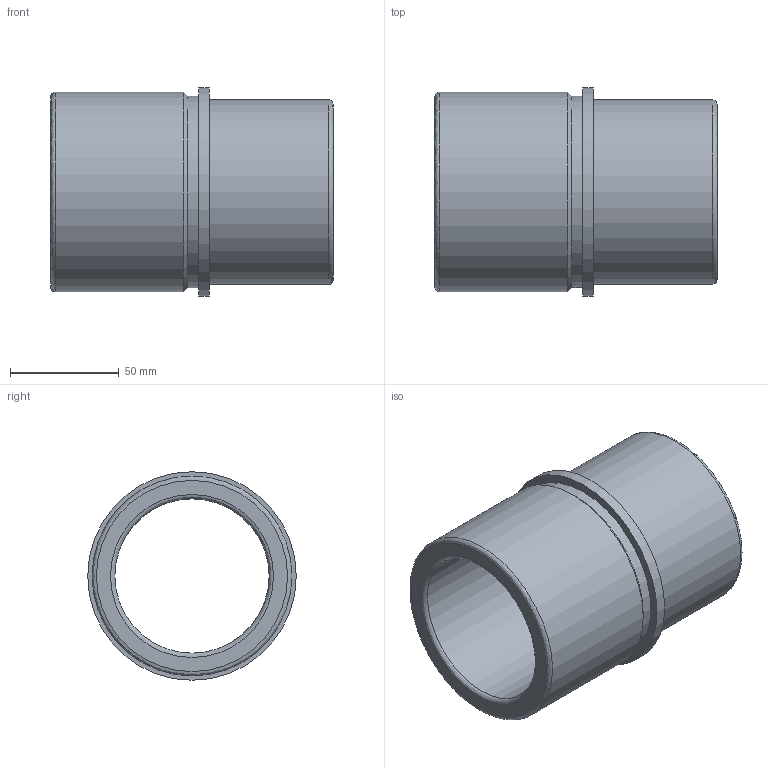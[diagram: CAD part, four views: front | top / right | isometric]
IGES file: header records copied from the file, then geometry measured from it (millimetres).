
Start section: Data from Parasolid IGES Translator 20.0.26, Copyright(c) 2006 Siemens P LM Software. All Rights Reserved.
Global section: file name: WZ - 4053 63 x 130 - 71.igs; native system: By Siemens PLM Incorporated; preprocessor: XPlus GENERIC/IGES 20.0.26; author: Noname; organization: Noname; date: 20201206.144627; units: millimetre
Bounding box: 130 x 96 x 96 mm (x, y, z)
Surface area: 71801.9 mm2 (no closed solid volume)
Topology: 0 solids, 0 shells, 14 faces, 52 edges, 38 vertices
Faces by surface type: revolution 10, extrusion 4
